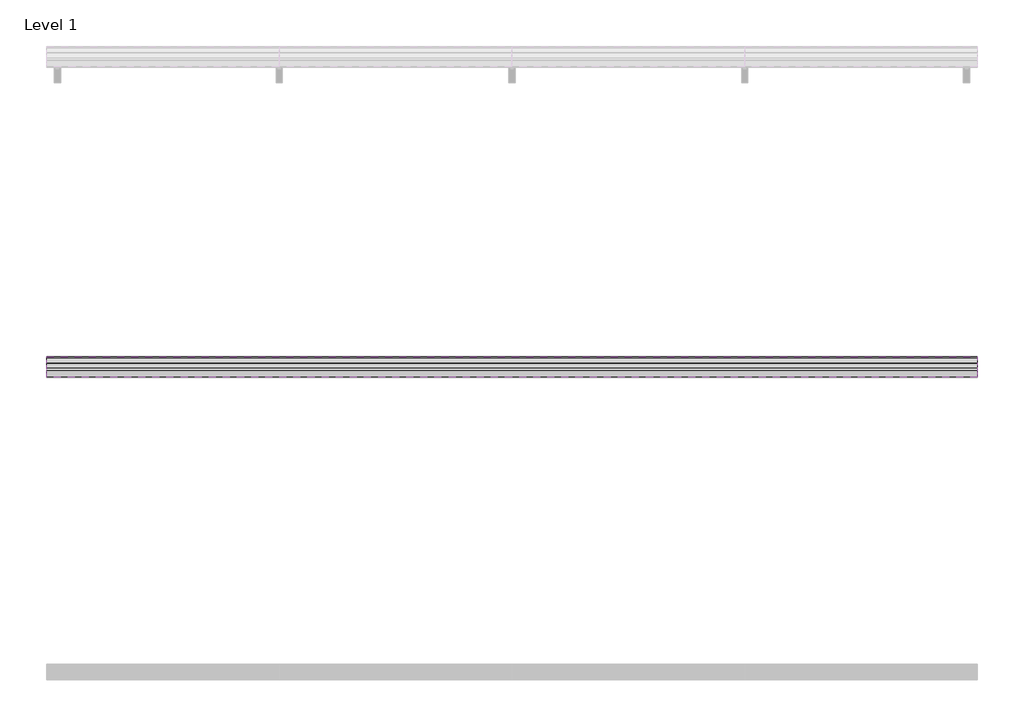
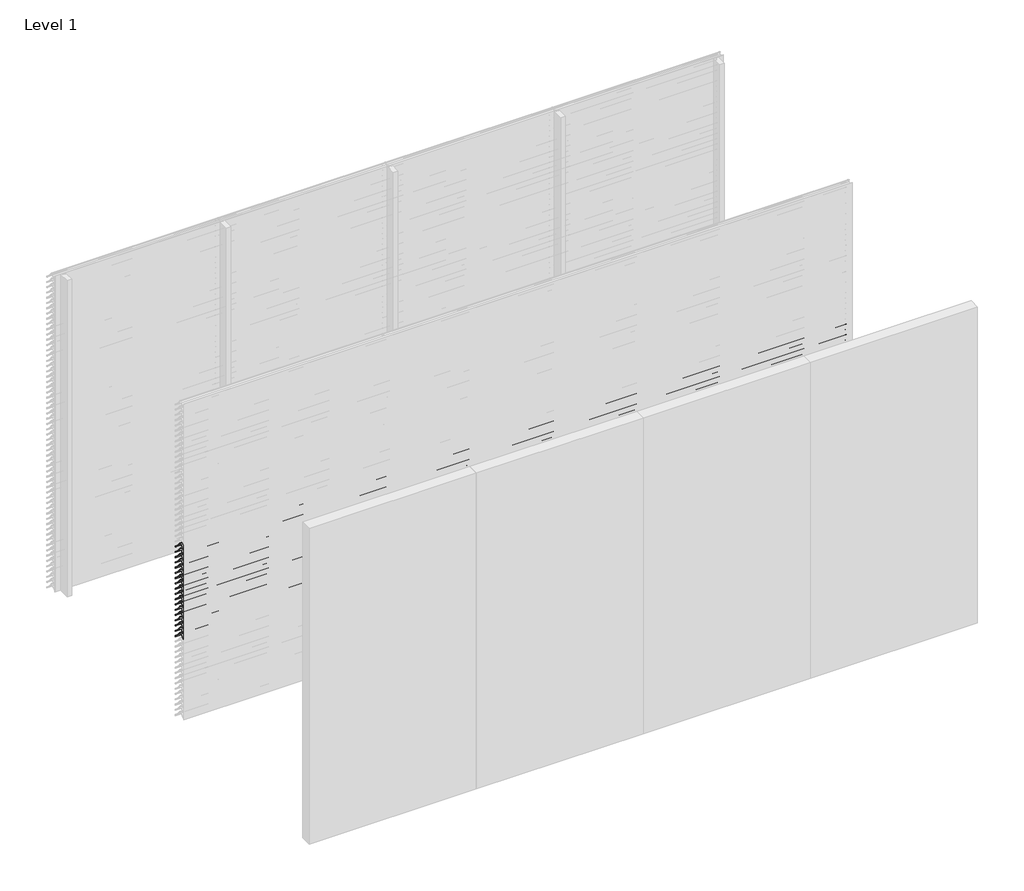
# One storey, part 56 of 173: 18 proxies.
"""IFC4 building model written with IfcOpenShell, lengths in millimetres."""

from ifc_helpers import new_model, si_unit, point, frame, frame_2d, origin, place, context, project, spatial, polyline, circle_curve, trimmed, segment, composite_curve, outline, extrude, element, save

model = new_model("IFC4")

# Units and contexts
model_context = context("Model", 3, world=origin())
ifc_project = project(units=[si_unit("LENGTHUNIT", "METRE", prefix="MILLI")], contexts=[model_context])

# Site, building, storey
site = spatial("IfcSite", under=ifc_project)
building = spatial("IfcBuilding", under=site)
storey = spatial("IfcBuildingStorey", under=building, Name="Level 1", Elevation=0.0)

# Proxies
placement = place(None, origin())
element("IfcBuildingElementProxy", 1, Name="Wall Sweeps", at=placement, inside=storey, context=model_context, shape_type="SweptSolid", body=[
    extrude(outline(composite_curve([segment(polyline([(-37998.0, 1609.1474905), (-37998.0, 1611.6227417)]), True, "CONTINUOUS"), segment(trimmed(circle_curve(frame_2d((-37951.2682172, 1566.2200208)), 65.1557103), [point((-37998.0, 1611.6227417))], [point((-37954.4014323, 1631.3003524))], False, "CARTESIAN"), True, "CONTINUOUS"), segment(polyline([(-37954.4014323, 1631.3003524), (-37934.8315836, 1631.3003524)]), True, "CONTINUOUS"), segment(trimmed(circle_curve(frame_2d((-37732.7329489, 1778.5533172)), 250.0545817), [point((-37934.8315836, 1631.3003524))], [point((-37941.4452143, 1640.8344583))], False, "CARTESIAN"), True, "CONTINUOUS"), segment(trimmed(circle_curve(frame_2d((-37953.2981792, 1635.1737835)), 13.1352966), [point((-37941.4452143, 1640.8344583))], [point((-37953.8171475, 1648.298824))], True, "CARTESIAN"), True, "CONTINUOUS"), segment(polyline([(-37953.8171475, 1648.298824), (-37953.8171475, 1650.0)]), True, "CONTINUOUS"), segment(trimmed(circle_curve(frame_2d((-37953.2981792, 1635.1737835)), 14.8352966), [point((-37953.8171475, 1650.0))], [point((-37939.9637661, 1641.6760487))], False, "CARTESIAN"), True, "CONTINUOUS"), segment(trimmed(circle_curve(frame_2d((-37732.7329489, 1778.5533172)), 248.3545817), [point((-37939.9637661, 1641.6760487))], [point((-37873.8787895, 1574.2059416))], True, "CARTESIAN"), True, "CONTINUOUS"), segment(trimmed(circle_curve(frame_2d((-37883.8147537, 1561.6649442)), 16.0), [point((-37873.8787895, 1574.2059416))], [point((-37867.8648347, 1560.4))], False, "CARTESIAN"), True, "CONTINUOUS"), segment(polyline([(-37867.8648347, 1560.4), (-37869.6712069, 1560.4)]), True, "CONTINUOUS"), segment(trimmed(circle_curve(frame_2d((-37883.8147537, 1561.6649442)), 14.2), [point((-37869.6712069, 1560.4))], [point((-37874.9518628, 1572.7594998))], True, "CARTESIAN"), True, "CONTINUOUS"), segment(trimmed(circle_curve(frame_2d((-37732.7329489, 1778.5533172)), 250.1545817), [point((-37874.9518628, 1572.7594998))], [point((-37933.7064024, 1629.6003524))], False, "CARTESIAN"), True, "CONTINUOUS"), segment(polyline([(-37933.7064024, 1629.6003524), (-37954.3602632, 1629.6003524)]), True, "CONTINUOUS"), segment(trimmed(circle_curve(frame_2d((-37951.2682172, 1566.2200208)), 63.4557103), [point((-37954.3602632, 1629.6003524))], [point((-37998.0, 1609.1474905))], True, "CARTESIAN"), True, "CONTINUOUS")], self_intersect=False)), frame((0.0, 0.0, 0.0), z_axis=(1.0, 0.0, 0.0), x_axis=(0.0, 1.0, 0.0)), (0.0, 0.0, 1.0), 6000.0),
])
element("IfcBuildingElementProxy", 2, Name="Wall Sweeps", at=placement, inside=storey, context=model_context, shape_type="SweptSolid", body=[
    extrude(outline(composite_curve([segment(polyline([(-37998.0, 1559.1474905), (-37998.0, 1561.6227417)]), True, "CONTINUOUS"), segment(trimmed(circle_curve(frame_2d((-37951.2682172, 1516.2200208)), 65.1557103), [point((-37998.0, 1561.6227417))], [point((-37954.4014323, 1581.3003524))], False, "CARTESIAN"), True, "CONTINUOUS"), segment(polyline([(-37954.4014323, 1581.3003524), (-37934.8315836, 1581.3003524)]), True, "CONTINUOUS"), segment(trimmed(circle_curve(frame_2d((-37732.7329489, 1728.5533172)), 250.0545817), [point((-37934.8315836, 1581.3003524))], [point((-37941.4452143, 1590.8344583))], False, "CARTESIAN"), True, "CONTINUOUS"), segment(trimmed(circle_curve(frame_2d((-37953.2981792, 1585.1737835)), 13.1352966), [point((-37941.4452143, 1590.8344583))], [point((-37953.8171475, 1598.298824))], True, "CARTESIAN"), True, "CONTINUOUS"), segment(polyline([(-37953.8171475, 1598.298824), (-37953.8171475, 1600.0)]), True, "CONTINUOUS"), segment(trimmed(circle_curve(frame_2d((-37953.2981792, 1585.1737835)), 14.8352966), [point((-37953.8171475, 1600.0))], [point((-37939.9637661, 1591.6760487))], False, "CARTESIAN"), True, "CONTINUOUS"), segment(trimmed(circle_curve(frame_2d((-37732.7329489, 1728.5533172)), 248.3545817), [point((-37939.9637661, 1591.6760487))], [point((-37873.8787895, 1524.2059416))], True, "CARTESIAN"), True, "CONTINUOUS"), segment(trimmed(circle_curve(frame_2d((-37883.8147537, 1511.6649442)), 16.0), [point((-37873.8787895, 1524.2059416))], [point((-37867.8648347, 1510.4))], False, "CARTESIAN"), True, "CONTINUOUS"), segment(polyline([(-37867.8648347, 1510.4), (-37869.6712069, 1510.4)]), True, "CONTINUOUS"), segment(trimmed(circle_curve(frame_2d((-37883.8147537, 1511.6649442)), 14.2), [point((-37869.6712069, 1510.4))], [point((-37874.9518628, 1522.7594998))], True, "CARTESIAN"), True, "CONTINUOUS"), segment(trimmed(circle_curve(frame_2d((-37732.7329489, 1728.5533172)), 250.1545817), [point((-37874.9518628, 1522.7594998))], [point((-37933.7064024, 1579.6003524))], False, "CARTESIAN"), True, "CONTINUOUS"), segment(polyline([(-37933.7064024, 1579.6003524), (-37954.3602632, 1579.6003524)]), True, "CONTINUOUS"), segment(trimmed(circle_curve(frame_2d((-37951.2682172, 1516.2200208)), 63.4557103), [point((-37954.3602632, 1579.6003524))], [point((-37998.0, 1559.1474905))], True, "CARTESIAN"), True, "CONTINUOUS")], self_intersect=False)), frame((0.0, 0.0, 0.0), z_axis=(1.0, 0.0, 0.0), x_axis=(0.0, 1.0, 0.0)), (0.0, 0.0, 1.0), 6000.0),
])
element("IfcBuildingElementProxy", 3, Name="Wall Sweeps", at=placement, inside=storey, context=model_context, shape_type="SweptSolid", body=[
    extrude(outline(composite_curve([segment(polyline([(-37998.0, 1509.1474905), (-37998.0, 1511.6227417)]), True, "CONTINUOUS"), segment(trimmed(circle_curve(frame_2d((-37951.2682172, 1466.2200208)), 65.1557103), [point((-37998.0, 1511.6227417))], [point((-37954.4014323, 1531.3003524))], False, "CARTESIAN"), True, "CONTINUOUS"), segment(polyline([(-37954.4014323, 1531.3003524), (-37934.8315836, 1531.3003524)]), True, "CONTINUOUS"), segment(trimmed(circle_curve(frame_2d((-37732.7329489, 1678.5533172)), 250.0545817), [point((-37934.8315836, 1531.3003524))], [point((-37941.4452143, 1540.8344583))], False, "CARTESIAN"), True, "CONTINUOUS"), segment(trimmed(circle_curve(frame_2d((-37953.2981792, 1535.1737835)), 13.1352966), [point((-37941.4452143, 1540.8344583))], [point((-37953.8171475, 1548.298824))], True, "CARTESIAN"), True, "CONTINUOUS"), segment(polyline([(-37953.8171475, 1548.298824), (-37953.8171475, 1550.0)]), True, "CONTINUOUS"), segment(trimmed(circle_curve(frame_2d((-37953.2981792, 1535.1737835)), 14.8352966), [point((-37953.8171475, 1550.0))], [point((-37939.9637661, 1541.6760487))], False, "CARTESIAN"), True, "CONTINUOUS"), segment(trimmed(circle_curve(frame_2d((-37732.7329489, 1678.5533172)), 248.3545817), [point((-37939.9637661, 1541.6760487))], [point((-37873.8787895, 1474.2059416))], True, "CARTESIAN"), True, "CONTINUOUS"), segment(trimmed(circle_curve(frame_2d((-37883.8147537, 1461.6649442)), 16.0), [point((-37873.8787895, 1474.2059416))], [point((-37867.8648347, 1460.4))], False, "CARTESIAN"), True, "CONTINUOUS"), segment(polyline([(-37867.8648347, 1460.4), (-37869.6712069, 1460.4)]), True, "CONTINUOUS"), segment(trimmed(circle_curve(frame_2d((-37883.8147537, 1461.6649442)), 14.2), [point((-37869.6712069, 1460.4))], [point((-37874.9518628, 1472.7594998))], True, "CARTESIAN"), True, "CONTINUOUS"), segment(trimmed(circle_curve(frame_2d((-37732.7329489, 1678.5533172)), 250.1545817), [point((-37874.9518628, 1472.7594998))], [point((-37933.7064024, 1529.6003524))], False, "CARTESIAN"), True, "CONTINUOUS"), segment(polyline([(-37933.7064024, 1529.6003524), (-37954.3602632, 1529.6003524)]), True, "CONTINUOUS"), segment(trimmed(circle_curve(frame_2d((-37951.2682172, 1466.2200208)), 63.4557103), [point((-37954.3602632, 1529.6003524))], [point((-37998.0, 1509.1474905))], True, "CARTESIAN"), True, "CONTINUOUS")], self_intersect=False)), frame((0.0, 0.0, 0.0), z_axis=(1.0, 0.0, 0.0), x_axis=(0.0, 1.0, 0.0)), (0.0, 0.0, 1.0), 6000.0),
])
element("IfcBuildingElementProxy", 4, Name="Wall Sweeps", at=placement, inside=storey, context=model_context, shape_type="SweptSolid", body=[
    extrude(outline(composite_curve([segment(polyline([(-37998.0, 1459.1474905), (-37998.0, 1461.6227417)]), True, "CONTINUOUS"), segment(trimmed(circle_curve(frame_2d((-37951.2682172, 1416.2200208)), 65.1557103), [point((-37998.0, 1461.6227417))], [point((-37954.4014323, 1481.3003524))], False, "CARTESIAN"), True, "CONTINUOUS"), segment(polyline([(-37954.4014323, 1481.3003524), (-37934.8315836, 1481.3003524)]), True, "CONTINUOUS"), segment(trimmed(circle_curve(frame_2d((-37732.7329489, 1628.5533172)), 250.0545817), [point((-37934.8315836, 1481.3003524))], [point((-37941.4452143, 1490.8344583))], False, "CARTESIAN"), True, "CONTINUOUS"), segment(trimmed(circle_curve(frame_2d((-37953.2981792, 1485.1737835)), 13.1352966), [point((-37941.4452143, 1490.8344583))], [point((-37953.8171475, 1498.298824))], True, "CARTESIAN"), True, "CONTINUOUS"), segment(polyline([(-37953.8171475, 1498.298824), (-37953.8171475, 1500.0)]), True, "CONTINUOUS"), segment(trimmed(circle_curve(frame_2d((-37953.2981792, 1485.1737835)), 14.8352966), [point((-37953.8171475, 1500.0))], [point((-37939.9637661, 1491.6760487))], False, "CARTESIAN"), True, "CONTINUOUS"), segment(trimmed(circle_curve(frame_2d((-37732.7329489, 1628.5533172)), 248.3545817), [point((-37939.9637661, 1491.6760487))], [point((-37873.8787895, 1424.2059416))], True, "CARTESIAN"), True, "CONTINUOUS"), segment(trimmed(circle_curve(frame_2d((-37883.8147537, 1411.6649442)), 16.0), [point((-37873.8787895, 1424.2059416))], [point((-37867.8648347, 1410.4))], False, "CARTESIAN"), True, "CONTINUOUS"), segment(polyline([(-37867.8648347, 1410.4), (-37869.6712069, 1410.4)]), True, "CONTINUOUS"), segment(trimmed(circle_curve(frame_2d((-37883.8147537, 1411.6649442)), 14.2), [point((-37869.6712069, 1410.4))], [point((-37874.9518628, 1422.7594998))], True, "CARTESIAN"), True, "CONTINUOUS"), segment(trimmed(circle_curve(frame_2d((-37732.7329489, 1628.5533172)), 250.1545817), [point((-37874.9518628, 1422.7594998))], [point((-37933.7064024, 1479.6003524))], False, "CARTESIAN"), True, "CONTINUOUS"), segment(polyline([(-37933.7064024, 1479.6003524), (-37954.3602632, 1479.6003524)]), True, "CONTINUOUS"), segment(trimmed(circle_curve(frame_2d((-37951.2682172, 1416.2200208)), 63.4557103), [point((-37954.3602632, 1479.6003524))], [point((-37998.0, 1459.1474905))], True, "CARTESIAN"), True, "CONTINUOUS")], self_intersect=False)), frame((0.0, 0.0, 0.0), z_axis=(1.0, 0.0, 0.0), x_axis=(0.0, 1.0, 0.0)), (0.0, 0.0, 1.0), 6000.0),
])
element("IfcBuildingElementProxy", 5, Name="Wall Sweeps", at=placement, inside=storey, context=model_context, shape_type="SweptSolid", body=[
    extrude(outline(composite_curve([segment(polyline([(-37998.0, 1409.1474905), (-37998.0, 1411.6227417)]), True, "CONTINUOUS"), segment(trimmed(circle_curve(frame_2d((-37951.2682172, 1366.2200208)), 65.1557103), [point((-37998.0, 1411.6227417))], [point((-37954.4014323, 1431.3003524))], False, "CARTESIAN"), True, "CONTINUOUS"), segment(polyline([(-37954.4014323, 1431.3003524), (-37934.8315836, 1431.3003524)]), True, "CONTINUOUS"), segment(trimmed(circle_curve(frame_2d((-37732.7329489, 1578.5533172)), 250.0545817), [point((-37934.8315836, 1431.3003524))], [point((-37941.4452143, 1440.8344583))], False, "CARTESIAN"), True, "CONTINUOUS"), segment(trimmed(circle_curve(frame_2d((-37953.2981792, 1435.1737835)), 13.1352966), [point((-37941.4452143, 1440.8344583))], [point((-37953.8171475, 1448.298824))], True, "CARTESIAN"), True, "CONTINUOUS"), segment(polyline([(-37953.8171475, 1448.298824), (-37953.8171475, 1450.0)]), True, "CONTINUOUS"), segment(trimmed(circle_curve(frame_2d((-37953.2981792, 1435.1737835)), 14.8352966), [point((-37953.8171475, 1450.0))], [point((-37939.9637661, 1441.6760487))], False, "CARTESIAN"), True, "CONTINUOUS"), segment(trimmed(circle_curve(frame_2d((-37732.7329489, 1578.5533172)), 248.3545817), [point((-37939.9637661, 1441.6760487))], [point((-37873.8787895, 1374.2059416))], True, "CARTESIAN"), True, "CONTINUOUS"), segment(trimmed(circle_curve(frame_2d((-37883.8147537, 1361.6649442)), 16.0), [point((-37873.8787895, 1374.2059416))], [point((-37867.8648347, 1360.4))], False, "CARTESIAN"), True, "CONTINUOUS"), segment(polyline([(-37867.8648347, 1360.4), (-37869.6712069, 1360.4)]), True, "CONTINUOUS"), segment(trimmed(circle_curve(frame_2d((-37883.8147537, 1361.6649442)), 14.2), [point((-37869.6712069, 1360.4))], [point((-37874.9518628, 1372.7594998))], True, "CARTESIAN"), True, "CONTINUOUS"), segment(trimmed(circle_curve(frame_2d((-37732.7329489, 1578.5533172)), 250.1545817), [point((-37874.9518628, 1372.7594998))], [point((-37933.7064024, 1429.6003524))], False, "CARTESIAN"), True, "CONTINUOUS"), segment(polyline([(-37933.7064024, 1429.6003524), (-37954.3602632, 1429.6003524)]), True, "CONTINUOUS"), segment(trimmed(circle_curve(frame_2d((-37951.2682172, 1366.2200208)), 63.4557103), [point((-37954.3602632, 1429.6003524))], [point((-37998.0, 1409.1474905))], True, "CARTESIAN"), True, "CONTINUOUS")], self_intersect=False)), frame((0.0, 0.0, 0.0), z_axis=(1.0, 0.0, 0.0), x_axis=(0.0, 1.0, 0.0)), (0.0, 0.0, 1.0), 6000.0),
])
element("IfcBuildingElementProxy", 6, Name="Wall Sweeps", at=placement, inside=storey, context=model_context, shape_type="SweptSolid", body=[
    extrude(outline(composite_curve([segment(polyline([(-37998.0, 1359.1474905), (-37998.0, 1361.6227417)]), True, "CONTINUOUS"), segment(trimmed(circle_curve(frame_2d((-37951.2682172, 1316.2200208)), 65.1557103), [point((-37998.0, 1361.6227417))], [point((-37954.4014323, 1381.3003524))], False, "CARTESIAN"), True, "CONTINUOUS"), segment(polyline([(-37954.4014323, 1381.3003524), (-37934.8315836, 1381.3003524)]), True, "CONTINUOUS"), segment(trimmed(circle_curve(frame_2d((-37732.7329489, 1528.5533172)), 250.0545817), [point((-37934.8315836, 1381.3003524))], [point((-37941.4452143, 1390.8344583))], False, "CARTESIAN"), True, "CONTINUOUS"), segment(trimmed(circle_curve(frame_2d((-37953.2981792, 1385.1737835)), 13.1352966), [point((-37941.4452143, 1390.8344583))], [point((-37953.8171475, 1398.298824))], True, "CARTESIAN"), True, "CONTINUOUS"), segment(polyline([(-37953.8171475, 1398.298824), (-37953.8171475, 1400.0)]), True, "CONTINUOUS"), segment(trimmed(circle_curve(frame_2d((-37953.2981792, 1385.1737835)), 14.8352966), [point((-37953.8171475, 1400.0))], [point((-37939.9637661, 1391.6760487))], False, "CARTESIAN"), True, "CONTINUOUS"), segment(trimmed(circle_curve(frame_2d((-37732.7329489, 1528.5533172)), 248.3545817), [point((-37939.9637661, 1391.6760487))], [point((-37873.8787895, 1324.2059416))], True, "CARTESIAN"), True, "CONTINUOUS"), segment(trimmed(circle_curve(frame_2d((-37883.8147537, 1311.6649442)), 16.0), [point((-37873.8787895, 1324.2059416))], [point((-37867.8648347, 1310.4))], False, "CARTESIAN"), True, "CONTINUOUS"), segment(polyline([(-37867.8648347, 1310.4), (-37869.6712069, 1310.4)]), True, "CONTINUOUS"), segment(trimmed(circle_curve(frame_2d((-37883.8147537, 1311.6649442)), 14.2), [point((-37869.6712069, 1310.4))], [point((-37874.9518628, 1322.7594998))], True, "CARTESIAN"), True, "CONTINUOUS"), segment(trimmed(circle_curve(frame_2d((-37732.7329489, 1528.5533172)), 250.1545817), [point((-37874.9518628, 1322.7594998))], [point((-37933.7064024, 1379.6003524))], False, "CARTESIAN"), True, "CONTINUOUS"), segment(polyline([(-37933.7064024, 1379.6003524), (-37954.3602632, 1379.6003524)]), True, "CONTINUOUS"), segment(trimmed(circle_curve(frame_2d((-37951.2682172, 1316.2200208)), 63.4557103), [point((-37954.3602632, 1379.6003524))], [point((-37998.0, 1359.1474905))], True, "CARTESIAN"), True, "CONTINUOUS")], self_intersect=False)), frame((0.0, 0.0, 0.0), z_axis=(1.0, 0.0, 0.0), x_axis=(0.0, 1.0, 0.0)), (0.0, 0.0, 1.0), 6000.0),
])
element("IfcBuildingElementProxy", 7, Name="Wall Sweeps", at=placement, inside=storey, context=model_context, shape_type="SweptSolid", body=[
    extrude(outline(composite_curve([segment(polyline([(-37998.0, 1309.1474905), (-37998.0, 1311.6227417)]), True, "CONTINUOUS"), segment(trimmed(circle_curve(frame_2d((-37951.2682172, 1266.2200208)), 65.1557103), [point((-37998.0, 1311.6227417))], [point((-37954.4014323, 1331.3003524))], False, "CARTESIAN"), True, "CONTINUOUS"), segment(polyline([(-37954.4014323, 1331.3003524), (-37934.8315836, 1331.3003524)]), True, "CONTINUOUS"), segment(trimmed(circle_curve(frame_2d((-37732.7329489, 1478.5533172)), 250.0545817), [point((-37934.8315836, 1331.3003524))], [point((-37941.4452143, 1340.8344583))], False, "CARTESIAN"), True, "CONTINUOUS"), segment(trimmed(circle_curve(frame_2d((-37953.2981792, 1335.1737835)), 13.1352966), [point((-37941.4452143, 1340.8344583))], [point((-37953.8171475, 1348.298824))], True, "CARTESIAN"), True, "CONTINUOUS"), segment(polyline([(-37953.8171475, 1348.298824), (-37953.8171475, 1350.0)]), True, "CONTINUOUS"), segment(trimmed(circle_curve(frame_2d((-37953.2981792, 1335.1737835)), 14.8352966), [point((-37953.8171475, 1350.0))], [point((-37939.9637661, 1341.6760487))], False, "CARTESIAN"), True, "CONTINUOUS"), segment(trimmed(circle_curve(frame_2d((-37732.7329489, 1478.5533172)), 248.3545817), [point((-37939.9637661, 1341.6760487))], [point((-37873.8787895, 1274.2059416))], True, "CARTESIAN"), True, "CONTINUOUS"), segment(trimmed(circle_curve(frame_2d((-37883.8147537, 1261.6649442)), 16.0), [point((-37873.8787895, 1274.2059416))], [point((-37867.8648347, 1260.4))], False, "CARTESIAN"), True, "CONTINUOUS"), segment(polyline([(-37867.8648347, 1260.4), (-37869.6712069, 1260.4)]), True, "CONTINUOUS"), segment(trimmed(circle_curve(frame_2d((-37883.8147537, 1261.6649442)), 14.2), [point((-37869.6712069, 1260.4))], [point((-37874.9518628, 1272.7594998))], True, "CARTESIAN"), True, "CONTINUOUS"), segment(trimmed(circle_curve(frame_2d((-37732.7329489, 1478.5533172)), 250.1545817), [point((-37874.9518628, 1272.7594998))], [point((-37933.7064024, 1329.6003524))], False, "CARTESIAN"), True, "CONTINUOUS"), segment(polyline([(-37933.7064024, 1329.6003524), (-37954.3602632, 1329.6003524)]), True, "CONTINUOUS"), segment(trimmed(circle_curve(frame_2d((-37951.2682172, 1266.2200208)), 63.4557103), [point((-37954.3602632, 1329.6003524))], [point((-37998.0, 1309.1474905))], True, "CARTESIAN"), True, "CONTINUOUS")], self_intersect=False)), frame((0.0, 0.0, 0.0), z_axis=(1.0, 0.0, 0.0), x_axis=(0.0, 1.0, 0.0)), (0.0, 0.0, 1.0), 6000.0),
])
element("IfcBuildingElementProxy", 8, Name="Wall Sweeps", at=placement, inside=storey, context=model_context, shape_type="SweptSolid", body=[
    extrude(outline(composite_curve([segment(polyline([(-37998.0, 1259.1474905), (-37998.0, 1261.6227417)]), True, "CONTINUOUS"), segment(trimmed(circle_curve(frame_2d((-37951.2682172, 1216.2200208)), 65.1557103), [point((-37998.0, 1261.6227417))], [point((-37954.4014323, 1281.3003524))], False, "CARTESIAN"), True, "CONTINUOUS"), segment(polyline([(-37954.4014323, 1281.3003524), (-37934.8315836, 1281.3003524)]), True, "CONTINUOUS"), segment(trimmed(circle_curve(frame_2d((-37732.7329489, 1428.5533172)), 250.0545817), [point((-37934.8315836, 1281.3003524))], [point((-37941.4452143, 1290.8344583))], False, "CARTESIAN"), True, "CONTINUOUS"), segment(trimmed(circle_curve(frame_2d((-37953.2981792, 1285.1737835)), 13.1352966), [point((-37941.4452143, 1290.8344583))], [point((-37953.8171475, 1298.298824))], True, "CARTESIAN"), True, "CONTINUOUS"), segment(polyline([(-37953.8171475, 1298.298824), (-37953.8171475, 1300.0)]), True, "CONTINUOUS"), segment(trimmed(circle_curve(frame_2d((-37953.2981792, 1285.1737835)), 14.8352966), [point((-37953.8171475, 1300.0))], [point((-37939.9637661, 1291.6760487))], False, "CARTESIAN"), True, "CONTINUOUS"), segment(trimmed(circle_curve(frame_2d((-37732.7329489, 1428.5533172)), 248.3545817), [point((-37939.9637661, 1291.6760487))], [point((-37873.8787895, 1224.2059416))], True, "CARTESIAN"), True, "CONTINUOUS"), segment(trimmed(circle_curve(frame_2d((-37883.8147537, 1211.6649442)), 16.0), [point((-37873.8787895, 1224.2059416))], [point((-37867.8648347, 1210.4))], False, "CARTESIAN"), True, "CONTINUOUS"), segment(polyline([(-37867.8648347, 1210.4), (-37869.6712069, 1210.4)]), True, "CONTINUOUS"), segment(trimmed(circle_curve(frame_2d((-37883.8147537, 1211.6649442)), 14.2), [point((-37869.6712069, 1210.4))], [point((-37874.9518628, 1222.7594998))], True, "CARTESIAN"), True, "CONTINUOUS"), segment(trimmed(circle_curve(frame_2d((-37732.7329489, 1428.5533172)), 250.1545817), [point((-37874.9518628, 1222.7594998))], [point((-37933.7064024, 1279.6003524))], False, "CARTESIAN"), True, "CONTINUOUS"), segment(polyline([(-37933.7064024, 1279.6003524), (-37954.3602632, 1279.6003524)]), True, "CONTINUOUS"), segment(trimmed(circle_curve(frame_2d((-37951.2682172, 1216.2200208)), 63.4557103), [point((-37954.3602632, 1279.6003524))], [point((-37998.0, 1259.1474905))], True, "CARTESIAN"), True, "CONTINUOUS")], self_intersect=False)), frame((0.0, 0.0, 0.0), z_axis=(1.0, 0.0, 0.0), x_axis=(0.0, 1.0, 0.0)), (0.0, 0.0, 1.0), 6000.0),
])
element("IfcBuildingElementProxy", 9, Name="Wall Sweeps", at=placement, inside=storey, context=model_context, shape_type="SweptSolid", body=[
    extrude(outline(composite_curve([segment(polyline([(-37998.0, 1209.1474905), (-37998.0, 1211.6227417)]), True, "CONTINUOUS"), segment(trimmed(circle_curve(frame_2d((-37951.2682172, 1166.2200208)), 65.1557103), [point((-37998.0, 1211.6227417))], [point((-37954.4014323, 1231.3003524))], False, "CARTESIAN"), True, "CONTINUOUS"), segment(polyline([(-37954.4014323, 1231.3003524), (-37934.8315836, 1231.3003524)]), True, "CONTINUOUS"), segment(trimmed(circle_curve(frame_2d((-37732.7329489, 1378.5533172)), 250.0545817), [point((-37934.8315836, 1231.3003524))], [point((-37941.4452143, 1240.8344583))], False, "CARTESIAN"), True, "CONTINUOUS"), segment(trimmed(circle_curve(frame_2d((-37953.2981792, 1235.1737835)), 13.1352966), [point((-37941.4452143, 1240.8344583))], [point((-37953.8171475, 1248.298824))], True, "CARTESIAN"), True, "CONTINUOUS"), segment(polyline([(-37953.8171475, 1248.298824), (-37953.8171475, 1250.0)]), True, "CONTINUOUS"), segment(trimmed(circle_curve(frame_2d((-37953.2981792, 1235.1737835)), 14.8352966), [point((-37953.8171475, 1250.0))], [point((-37939.9637661, 1241.6760487))], False, "CARTESIAN"), True, "CONTINUOUS"), segment(trimmed(circle_curve(frame_2d((-37732.7329489, 1378.5533172)), 248.3545817), [point((-37939.9637661, 1241.6760487))], [point((-37873.8787895, 1174.2059416))], True, "CARTESIAN"), True, "CONTINUOUS"), segment(trimmed(circle_curve(frame_2d((-37883.8147537, 1161.6649442)), 16.0), [point((-37873.8787895, 1174.2059416))], [point((-37867.8648347, 1160.4))], False, "CARTESIAN"), True, "CONTINUOUS"), segment(polyline([(-37867.8648347, 1160.4), (-37869.6712069, 1160.4)]), True, "CONTINUOUS"), segment(trimmed(circle_curve(frame_2d((-37883.8147537, 1161.6649442)), 14.2), [point((-37869.6712069, 1160.4))], [point((-37874.9518628, 1172.7594998))], True, "CARTESIAN"), True, "CONTINUOUS"), segment(trimmed(circle_curve(frame_2d((-37732.7329489, 1378.5533172)), 250.1545817), [point((-37874.9518628, 1172.7594998))], [point((-37933.7064024, 1229.6003524))], False, "CARTESIAN"), True, "CONTINUOUS"), segment(polyline([(-37933.7064024, 1229.6003524), (-37954.3602632, 1229.6003524)]), True, "CONTINUOUS"), segment(trimmed(circle_curve(frame_2d((-37951.2682172, 1166.2200208)), 63.4557103), [point((-37954.3602632, 1229.6003524))], [point((-37998.0, 1209.1474905))], True, "CARTESIAN"), True, "CONTINUOUS")], self_intersect=False)), frame((0.0, 0.0, 0.0), z_axis=(1.0, 0.0, 0.0), x_axis=(0.0, 1.0, 0.0)), (0.0, 0.0, 1.0), 6000.0),
])
element("IfcBuildingElementProxy", 10, Name="Wall Sweeps", at=placement, inside=storey, context=model_context, shape_type="SweptSolid", body=[
    extrude(outline(composite_curve([segment(polyline([(-37998.0, 1159.1474905), (-37998.0, 1161.6227417)]), True, "CONTINUOUS"), segment(trimmed(circle_curve(frame_2d((-37951.2682172, 1116.2200208)), 65.1557103), [point((-37998.0, 1161.6227417))], [point((-37954.4014323, 1181.3003524))], False, "CARTESIAN"), True, "CONTINUOUS"), segment(polyline([(-37954.4014323, 1181.3003524), (-37934.8315836, 1181.3003524)]), True, "CONTINUOUS"), segment(trimmed(circle_curve(frame_2d((-37732.7329489, 1328.5533172)), 250.0545817), [point((-37934.8315836, 1181.3003524))], [point((-37941.4452143, 1190.8344583))], False, "CARTESIAN"), True, "CONTINUOUS"), segment(trimmed(circle_curve(frame_2d((-37953.2981792, 1185.1737835)), 13.1352966), [point((-37941.4452143, 1190.8344583))], [point((-37953.8171475, 1198.298824))], True, "CARTESIAN"), True, "CONTINUOUS"), segment(polyline([(-37953.8171475, 1198.298824), (-37953.8171475, 1200.0)]), True, "CONTINUOUS"), segment(trimmed(circle_curve(frame_2d((-37953.2981792, 1185.1737835)), 14.8352966), [point((-37953.8171475, 1200.0))], [point((-37939.9637661, 1191.6760487))], False, "CARTESIAN"), True, "CONTINUOUS"), segment(trimmed(circle_curve(frame_2d((-37732.7329489, 1328.5533172)), 248.3545817), [point((-37939.9637661, 1191.6760487))], [point((-37873.8787895, 1124.2059416))], True, "CARTESIAN"), True, "CONTINUOUS"), segment(trimmed(circle_curve(frame_2d((-37883.8147537, 1111.6649442)), 16.0), [point((-37873.8787895, 1124.2059416))], [point((-37867.8648347, 1110.4))], False, "CARTESIAN"), True, "CONTINUOUS"), segment(polyline([(-37867.8648347, 1110.4), (-37869.6712069, 1110.4)]), True, "CONTINUOUS"), segment(trimmed(circle_curve(frame_2d((-37883.8147537, 1111.6649442)), 14.2), [point((-37869.6712069, 1110.4))], [point((-37874.9518628, 1122.7594998))], True, "CARTESIAN"), True, "CONTINUOUS"), segment(trimmed(circle_curve(frame_2d((-37732.7329489, 1328.5533172)), 250.1545817), [point((-37874.9518628, 1122.7594998))], [point((-37933.7064024, 1179.6003524))], False, "CARTESIAN"), True, "CONTINUOUS"), segment(polyline([(-37933.7064024, 1179.6003524), (-37954.3602632, 1179.6003524)]), True, "CONTINUOUS"), segment(trimmed(circle_curve(frame_2d((-37951.2682172, 1116.2200208)), 63.4557103), [point((-37954.3602632, 1179.6003524))], [point((-37998.0, 1159.1474905))], True, "CARTESIAN"), True, "CONTINUOUS")], self_intersect=False)), frame((0.0, 0.0, 0.0), z_axis=(1.0, 0.0, 0.0), x_axis=(0.0, 1.0, 0.0)), (0.0, 0.0, 1.0), 6000.0),
])
element("IfcBuildingElementProxy", 11, Name="Wall Sweeps", at=placement, inside=storey, context=model_context, shape_type="SweptSolid", body=[
    extrude(outline(composite_curve([segment(polyline([(-37998.0, 1109.1474905), (-37998.0, 1111.6227417)]), True, "CONTINUOUS"), segment(trimmed(circle_curve(frame_2d((-37951.2682172, 1066.2200208)), 65.1557103), [point((-37998.0, 1111.6227417))], [point((-37954.4014323, 1131.3003524))], False, "CARTESIAN"), True, "CONTINUOUS"), segment(polyline([(-37954.4014323, 1131.3003524), (-37934.8315836, 1131.3003524)]), True, "CONTINUOUS"), segment(trimmed(circle_curve(frame_2d((-37732.7329489, 1278.5533172)), 250.0545817), [point((-37934.8315836, 1131.3003524))], [point((-37941.4452143, 1140.8344583))], False, "CARTESIAN"), True, "CONTINUOUS"), segment(trimmed(circle_curve(frame_2d((-37953.2981792, 1135.1737835)), 13.1352966), [point((-37941.4452143, 1140.8344583))], [point((-37953.8171475, 1148.298824))], True, "CARTESIAN"), True, "CONTINUOUS"), segment(polyline([(-37953.8171475, 1148.298824), (-37953.8171475, 1150.0)]), True, "CONTINUOUS"), segment(trimmed(circle_curve(frame_2d((-37953.2981792, 1135.1737835)), 14.8352966), [point((-37953.8171475, 1150.0))], [point((-37939.9637661, 1141.6760487))], False, "CARTESIAN"), True, "CONTINUOUS"), segment(trimmed(circle_curve(frame_2d((-37732.7329489, 1278.5533172)), 248.3545817), [point((-37939.9637661, 1141.6760487))], [point((-37873.8787895, 1074.2059416))], True, "CARTESIAN"), True, "CONTINUOUS"), segment(trimmed(circle_curve(frame_2d((-37883.8147537, 1061.6649442)), 16.0), [point((-37873.8787895, 1074.2059416))], [point((-37867.8648347, 1060.4))], False, "CARTESIAN"), True, "CONTINUOUS"), segment(polyline([(-37867.8648347, 1060.4), (-37869.6712069, 1060.4)]), True, "CONTINUOUS"), segment(trimmed(circle_curve(frame_2d((-37883.8147537, 1061.6649442)), 14.2), [point((-37869.6712069, 1060.4))], [point((-37874.9518628, 1072.7594998))], True, "CARTESIAN"), True, "CONTINUOUS"), segment(trimmed(circle_curve(frame_2d((-37732.7329489, 1278.5533172)), 250.1545817), [point((-37874.9518628, 1072.7594998))], [point((-37933.7064024, 1129.6003524))], False, "CARTESIAN"), True, "CONTINUOUS"), segment(polyline([(-37933.7064024, 1129.6003524), (-37954.3602632, 1129.6003524)]), True, "CONTINUOUS"), segment(trimmed(circle_curve(frame_2d((-37951.2682172, 1066.2200208)), 63.4557103), [point((-37954.3602632, 1129.6003524))], [point((-37998.0, 1109.1474905))], True, "CARTESIAN"), True, "CONTINUOUS")], self_intersect=False)), frame((0.0, 0.0, 0.0), z_axis=(1.0, 0.0, 0.0), x_axis=(0.0, 1.0, 0.0)), (0.0, 0.0, 1.0), 6000.0),
])
element("IfcBuildingElementProxy", 12, Name="Wall Sweeps", at=placement, inside=storey, context=model_context, shape_type="SweptSolid", body=[
    extrude(outline(composite_curve([segment(polyline([(-37998.0, 1059.1474905), (-37998.0, 1061.6227417)]), True, "CONTINUOUS"), segment(trimmed(circle_curve(frame_2d((-37951.2682172, 1016.2200208)), 65.1557103), [point((-37998.0, 1061.6227417))], [point((-37954.4014323, 1081.3003524))], False, "CARTESIAN"), True, "CONTINUOUS"), segment(polyline([(-37954.4014323, 1081.3003524), (-37934.8315836, 1081.3003524)]), True, "CONTINUOUS"), segment(trimmed(circle_curve(frame_2d((-37732.7329489, 1228.5533172)), 250.0545817), [point((-37934.8315836, 1081.3003524))], [point((-37941.4452143, 1090.8344583))], False, "CARTESIAN"), True, "CONTINUOUS"), segment(trimmed(circle_curve(frame_2d((-37953.2981792, 1085.1737835)), 13.1352966), [point((-37941.4452143, 1090.8344583))], [point((-37953.8171475, 1098.298824))], True, "CARTESIAN"), True, "CONTINUOUS"), segment(polyline([(-37953.8171475, 1098.298824), (-37953.8171475, 1100.0)]), True, "CONTINUOUS"), segment(trimmed(circle_curve(frame_2d((-37953.2981792, 1085.1737835)), 14.8352966), [point((-37953.8171475, 1100.0))], [point((-37939.9637661, 1091.6760487))], False, "CARTESIAN"), True, "CONTINUOUS"), segment(trimmed(circle_curve(frame_2d((-37732.7329489, 1228.5533172)), 248.3545817), [point((-37939.9637661, 1091.6760487))], [point((-37873.8787895, 1024.2059416))], True, "CARTESIAN"), True, "CONTINUOUS"), segment(trimmed(circle_curve(frame_2d((-37883.8147537, 1011.6649442)), 16.0), [point((-37873.8787895, 1024.2059416))], [point((-37867.8648347, 1010.4))], False, "CARTESIAN"), True, "CONTINUOUS"), segment(polyline([(-37867.8648347, 1010.4), (-37869.6712069, 1010.4)]), True, "CONTINUOUS"), segment(trimmed(circle_curve(frame_2d((-37883.8147537, 1011.6649442)), 14.2), [point((-37869.6712069, 1010.4))], [point((-37874.9518628, 1022.7594998))], True, "CARTESIAN"), True, "CONTINUOUS"), segment(trimmed(circle_curve(frame_2d((-37732.7329489, 1228.5533172)), 250.1545817), [point((-37874.9518628, 1022.7594998))], [point((-37933.7064024, 1079.6003524))], False, "CARTESIAN"), True, "CONTINUOUS"), segment(polyline([(-37933.7064024, 1079.6003524), (-37954.3602632, 1079.6003524)]), True, "CONTINUOUS"), segment(trimmed(circle_curve(frame_2d((-37951.2682172, 1016.2200208)), 63.4557103), [point((-37954.3602632, 1079.6003524))], [point((-37998.0, 1059.1474905))], True, "CARTESIAN"), True, "CONTINUOUS")], self_intersect=False)), frame((0.0, 0.0, 0.0), z_axis=(1.0, 0.0, 0.0), x_axis=(0.0, 1.0, 0.0)), (0.0, 0.0, 1.0), 6000.0),
])
element("IfcBuildingElementProxy", 13, Name="Wall Sweeps", at=placement, inside=storey, context=model_context, shape_type="SweptSolid", body=[
    extrude(outline(composite_curve([segment(polyline([(-37998.0, 1009.1474905), (-37998.0, 1011.6227417)]), True, "CONTINUOUS"), segment(trimmed(circle_curve(frame_2d((-37951.2682172, 966.2200208)), 65.1557103), [point((-37998.0, 1011.6227417))], [point((-37954.4014323, 1031.3003524))], False, "CARTESIAN"), True, "CONTINUOUS"), segment(polyline([(-37954.4014323, 1031.3003524), (-37934.8315836, 1031.3003524)]), True, "CONTINUOUS"), segment(trimmed(circle_curve(frame_2d((-37732.7329489, 1178.5533172)), 250.0545817), [point((-37934.8315836, 1031.3003524))], [point((-37941.4452143, 1040.8344583))], False, "CARTESIAN"), True, "CONTINUOUS"), segment(trimmed(circle_curve(frame_2d((-37953.2981792, 1035.1737835)), 13.1352966), [point((-37941.4452143, 1040.8344583))], [point((-37953.8171475, 1048.298824))], True, "CARTESIAN"), True, "CONTINUOUS"), segment(polyline([(-37953.8171475, 1048.298824), (-37953.8171475, 1050.0)]), True, "CONTINUOUS"), segment(trimmed(circle_curve(frame_2d((-37953.2981792, 1035.1737835)), 14.8352966), [point((-37953.8171475, 1050.0))], [point((-37939.9637661, 1041.6760487))], False, "CARTESIAN"), True, "CONTINUOUS"), segment(trimmed(circle_curve(frame_2d((-37732.7329489, 1178.5533172)), 248.3545817), [point((-37939.9637661, 1041.6760487))], [point((-37873.8787895, 974.2059416))], True, "CARTESIAN"), True, "CONTINUOUS"), segment(trimmed(circle_curve(frame_2d((-37883.8147537, 961.6649442)), 16.0), [point((-37873.8787895, 974.2059416))], [point((-37867.8648347, 960.4))], False, "CARTESIAN"), True, "CONTINUOUS"), segment(polyline([(-37867.8648347, 960.4), (-37869.6712069, 960.4)]), True, "CONTINUOUS"), segment(trimmed(circle_curve(frame_2d((-37883.8147537, 961.6649442)), 14.2), [point((-37869.6712069, 960.4))], [point((-37874.9518628, 972.7594998))], True, "CARTESIAN"), True, "CONTINUOUS"), segment(trimmed(circle_curve(frame_2d((-37732.7329489, 1178.5533172)), 250.1545817), [point((-37874.9518628, 972.7594998))], [point((-37933.7064024, 1029.6003524))], False, "CARTESIAN"), True, "CONTINUOUS"), segment(polyline([(-37933.7064024, 1029.6003524), (-37954.3602632, 1029.6003524)]), True, "CONTINUOUS"), segment(trimmed(circle_curve(frame_2d((-37951.2682172, 966.2200208)), 63.4557103), [point((-37954.3602632, 1029.6003524))], [point((-37998.0, 1009.1474905))], True, "CARTESIAN"), True, "CONTINUOUS")], self_intersect=False)), frame((0.0, 0.0, 0.0), z_axis=(1.0, 0.0, 0.0), x_axis=(0.0, 1.0, 0.0)), (0.0, 0.0, 1.0), 6000.0),
])
element("IfcBuildingElementProxy", 14, Name="Wall Sweeps", at=placement, inside=storey, context=model_context, shape_type="SweptSolid", body=[
    extrude(outline(composite_curve([segment(polyline([(-37998.0, 959.1474905), (-37998.0, 961.6227417)]), True, "CONTINUOUS"), segment(trimmed(circle_curve(frame_2d((-37951.2682172, 916.2200208)), 65.1557103), [point((-37998.0, 961.6227417))], [point((-37954.4014323, 981.3003524))], False, "CARTESIAN"), True, "CONTINUOUS"), segment(polyline([(-37954.4014323, 981.3003524), (-37934.8315836, 981.3003524)]), True, "CONTINUOUS"), segment(trimmed(circle_curve(frame_2d((-37732.7329489, 1128.5533172)), 250.0545817), [point((-37934.8315836, 981.3003524))], [point((-37941.4452143, 990.8344583))], False, "CARTESIAN"), True, "CONTINUOUS"), segment(trimmed(circle_curve(frame_2d((-37953.2981792, 985.1737835)), 13.1352966), [point((-37941.4452143, 990.8344583))], [point((-37953.8171475, 998.298824))], True, "CARTESIAN"), True, "CONTINUOUS"), segment(polyline([(-37953.8171475, 998.298824), (-37953.8171475, 1000.0)]), True, "CONTINUOUS"), segment(trimmed(circle_curve(frame_2d((-37953.2981792, 985.1737835)), 14.8352966), [point((-37953.8171475, 1000.0))], [point((-37939.9637661, 991.6760487))], False, "CARTESIAN"), True, "CONTINUOUS"), segment(trimmed(circle_curve(frame_2d((-37732.7329489, 1128.5533172)), 248.3545817), [point((-37939.9637661, 991.6760487))], [point((-37873.8787895, 924.2059416))], True, "CARTESIAN"), True, "CONTINUOUS"), segment(trimmed(circle_curve(frame_2d((-37883.8147537, 911.6649442)), 16.0), [point((-37873.8787895, 924.2059416))], [point((-37867.8648347, 910.4))], False, "CARTESIAN"), True, "CONTINUOUS"), segment(polyline([(-37867.8648347, 910.4), (-37869.6712069, 910.4)]), True, "CONTINUOUS"), segment(trimmed(circle_curve(frame_2d((-37883.8147537, 911.6649442)), 14.2), [point((-37869.6712069, 910.4))], [point((-37874.9518628, 922.7594998))], True, "CARTESIAN"), True, "CONTINUOUS"), segment(trimmed(circle_curve(frame_2d((-37732.7329489, 1128.5533172)), 250.1545817), [point((-37874.9518628, 922.7594998))], [point((-37933.7064024, 979.6003524))], False, "CARTESIAN"), True, "CONTINUOUS"), segment(polyline([(-37933.7064024, 979.6003524), (-37954.3602632, 979.6003524)]), True, "CONTINUOUS"), segment(trimmed(circle_curve(frame_2d((-37951.2682172, 916.2200208)), 63.4557103), [point((-37954.3602632, 979.6003524))], [point((-37998.0, 959.1474905))], True, "CARTESIAN"), True, "CONTINUOUS")], self_intersect=False)), frame((0.0, 0.0, 0.0), z_axis=(1.0, 0.0, 0.0), x_axis=(0.0, 1.0, 0.0)), (0.0, 0.0, 1.0), 6000.0),
])
element("IfcBuildingElementProxy", 15, Name="Wall Sweeps", at=placement, inside=storey, context=model_context, shape_type="SweptSolid", body=[
    extrude(outline(composite_curve([segment(polyline([(-37998.0, 909.1474905), (-37998.0, 911.6227417)]), True, "CONTINUOUS"), segment(trimmed(circle_curve(frame_2d((-37951.2682172, 866.2200208)), 65.1557103), [point((-37998.0, 911.6227417))], [point((-37954.4014323, 931.3003524))], False, "CARTESIAN"), True, "CONTINUOUS"), segment(polyline([(-37954.4014323, 931.3003524), (-37934.8315836, 931.3003524)]), True, "CONTINUOUS"), segment(trimmed(circle_curve(frame_2d((-37732.7329489, 1078.5533172)), 250.0545817), [point((-37934.8315836, 931.3003524))], [point((-37941.4452143, 940.8344583))], False, "CARTESIAN"), True, "CONTINUOUS"), segment(trimmed(circle_curve(frame_2d((-37953.2981792, 935.1737835)), 13.1352966), [point((-37941.4452143, 940.8344583))], [point((-37953.8171475, 948.298824))], True, "CARTESIAN"), True, "CONTINUOUS"), segment(polyline([(-37953.8171475, 948.298824), (-37953.8171475, 950.0)]), True, "CONTINUOUS"), segment(trimmed(circle_curve(frame_2d((-37953.2981792, 935.1737835)), 14.8352966), [point((-37953.8171475, 950.0))], [point((-37939.9637661, 941.6760487))], False, "CARTESIAN"), True, "CONTINUOUS"), segment(trimmed(circle_curve(frame_2d((-37732.7329489, 1078.5533172)), 248.3545817), [point((-37939.9637661, 941.6760487))], [point((-37873.8787895, 874.2059416))], True, "CARTESIAN"), True, "CONTINUOUS"), segment(trimmed(circle_curve(frame_2d((-37883.8147537, 861.6649442)), 16.0), [point((-37873.8787895, 874.2059416))], [point((-37867.8648347, 860.4))], False, "CARTESIAN"), True, "CONTINUOUS"), segment(polyline([(-37867.8648347, 860.4), (-37869.6712069, 860.4)]), True, "CONTINUOUS"), segment(trimmed(circle_curve(frame_2d((-37883.8147537, 861.6649442)), 14.2), [point((-37869.6712069, 860.4))], [point((-37874.9518628, 872.7594998))], True, "CARTESIAN"), True, "CONTINUOUS"), segment(trimmed(circle_curve(frame_2d((-37732.7329489, 1078.5533172)), 250.1545817), [point((-37874.9518628, 872.7594998))], [point((-37933.7064024, 929.6003524))], False, "CARTESIAN"), True, "CONTINUOUS"), segment(polyline([(-37933.7064024, 929.6003524), (-37954.3602632, 929.6003524)]), True, "CONTINUOUS"), segment(trimmed(circle_curve(frame_2d((-37951.2682172, 866.2200208)), 63.4557103), [point((-37954.3602632, 929.6003524))], [point((-37998.0, 909.1474905))], True, "CARTESIAN"), True, "CONTINUOUS")], self_intersect=False)), frame((0.0, 0.0, 0.0), z_axis=(1.0, 0.0, 0.0), x_axis=(0.0, 1.0, 0.0)), (0.0, 0.0, 1.0), 6000.0),
])
element("IfcBuildingElementProxy", 16, Name="Wall Sweeps", at=placement, inside=storey, context=model_context, shape_type="SweptSolid", body=[
    extrude(outline(composite_curve([segment(polyline([(-37998.0, 859.1474905), (-37998.0, 861.6227417)]), True, "CONTINUOUS"), segment(trimmed(circle_curve(frame_2d((-37951.2682172, 816.2200208)), 65.1557103), [point((-37998.0, 861.6227417))], [point((-37954.4014323, 881.3003524))], False, "CARTESIAN"), True, "CONTINUOUS"), segment(polyline([(-37954.4014323, 881.3003524), (-37934.8315836, 881.3003524)]), True, "CONTINUOUS"), segment(trimmed(circle_curve(frame_2d((-37732.7329489, 1028.5533172)), 250.0545817), [point((-37934.8315836, 881.3003524))], [point((-37941.4452143, 890.8344583))], False, "CARTESIAN"), True, "CONTINUOUS"), segment(trimmed(circle_curve(frame_2d((-37953.2981792, 885.1737835)), 13.1352966), [point((-37941.4452143, 890.8344583))], [point((-37953.8171475, 898.298824))], True, "CARTESIAN"), True, "CONTINUOUS"), segment(polyline([(-37953.8171475, 898.298824), (-37953.8171475, 900.0)]), True, "CONTINUOUS"), segment(trimmed(circle_curve(frame_2d((-37953.2981792, 885.1737835)), 14.8352966), [point((-37953.8171475, 900.0))], [point((-37939.9637661, 891.6760487))], False, "CARTESIAN"), True, "CONTINUOUS"), segment(trimmed(circle_curve(frame_2d((-37732.7329489, 1028.5533172)), 248.3545817), [point((-37939.9637661, 891.6760487))], [point((-37873.8787895, 824.2059416))], True, "CARTESIAN"), True, "CONTINUOUS"), segment(trimmed(circle_curve(frame_2d((-37883.8147537, 811.6649442)), 16.0), [point((-37873.8787895, 824.2059416))], [point((-37867.8648347, 810.4))], False, "CARTESIAN"), True, "CONTINUOUS"), segment(polyline([(-37867.8648347, 810.4), (-37869.6712069, 810.4)]), True, "CONTINUOUS"), segment(trimmed(circle_curve(frame_2d((-37883.8147537, 811.6649442)), 14.2), [point((-37869.6712069, 810.4))], [point((-37874.9518628, 822.7594998))], True, "CARTESIAN"), True, "CONTINUOUS"), segment(trimmed(circle_curve(frame_2d((-37732.7329489, 1028.5533172)), 250.1545817), [point((-37874.9518628, 822.7594998))], [point((-37933.7064024, 879.6003524))], False, "CARTESIAN"), True, "CONTINUOUS"), segment(polyline([(-37933.7064024, 879.6003524), (-37954.3602632, 879.6003524)]), True, "CONTINUOUS"), segment(trimmed(circle_curve(frame_2d((-37951.2682172, 816.2200208)), 63.4557103), [point((-37954.3602632, 879.6003524))], [point((-37998.0, 859.1474905))], True, "CARTESIAN"), True, "CONTINUOUS")], self_intersect=False)), frame((0.0, 0.0, 0.0), z_axis=(1.0, 0.0, 0.0), x_axis=(0.0, 1.0, 0.0)), (0.0, 0.0, 1.0), 6000.0),
])
element("IfcBuildingElementProxy", 17, Name="Wall Sweeps", at=placement, inside=storey, context=model_context, shape_type="SweptSolid", body=[
    extrude(outline(composite_curve([segment(polyline([(-37998.0, 809.1474905), (-37998.0, 811.6227417)]), True, "CONTINUOUS"), segment(trimmed(circle_curve(frame_2d((-37951.2682172, 766.2200208)), 65.1557103), [point((-37998.0, 811.6227417))], [point((-37954.4014323, 831.3003524))], False, "CARTESIAN"), True, "CONTINUOUS"), segment(polyline([(-37954.4014323, 831.3003524), (-37934.8315836, 831.3003524)]), True, "CONTINUOUS"), segment(trimmed(circle_curve(frame_2d((-37732.7329489, 978.5533172)), 250.0545817), [point((-37934.8315836, 831.3003524))], [point((-37941.4452143, 840.8344583))], False, "CARTESIAN"), True, "CONTINUOUS"), segment(trimmed(circle_curve(frame_2d((-37953.2981792, 835.1737835)), 13.1352966), [point((-37941.4452143, 840.8344583))], [point((-37953.8171475, 848.298824))], True, "CARTESIAN"), True, "CONTINUOUS"), segment(polyline([(-37953.8171475, 848.298824), (-37953.8171475, 850.0)]), True, "CONTINUOUS"), segment(trimmed(circle_curve(frame_2d((-37953.2981792, 835.1737835)), 14.8352966), [point((-37953.8171475, 850.0))], [point((-37939.9637661, 841.6760487))], False, "CARTESIAN"), True, "CONTINUOUS"), segment(trimmed(circle_curve(frame_2d((-37732.7329489, 978.5533172)), 248.3545817), [point((-37939.9637661, 841.6760487))], [point((-37873.8787895, 774.2059416))], True, "CARTESIAN"), True, "CONTINUOUS"), segment(trimmed(circle_curve(frame_2d((-37883.8147537, 761.6649442)), 16.0), [point((-37873.8787895, 774.2059416))], [point((-37867.8648347, 760.4))], False, "CARTESIAN"), True, "CONTINUOUS"), segment(polyline([(-37867.8648347, 760.4), (-37869.6712069, 760.4)]), True, "CONTINUOUS"), segment(trimmed(circle_curve(frame_2d((-37883.8147537, 761.6649442)), 14.2), [point((-37869.6712069, 760.4))], [point((-37874.9518628, 772.7594998))], True, "CARTESIAN"), True, "CONTINUOUS"), segment(trimmed(circle_curve(frame_2d((-37732.7329489, 978.5533172)), 250.1545817), [point((-37874.9518628, 772.7594998))], [point((-37933.7064024, 829.6003524))], False, "CARTESIAN"), True, "CONTINUOUS"), segment(polyline([(-37933.7064024, 829.6003524), (-37954.3602632, 829.6003524)]), True, "CONTINUOUS"), segment(trimmed(circle_curve(frame_2d((-37951.2682172, 766.2200208)), 63.4557103), [point((-37954.3602632, 829.6003524))], [point((-37998.0, 809.1474905))], True, "CARTESIAN"), True, "CONTINUOUS")], self_intersect=False)), frame((0.0, 0.0, 0.0), z_axis=(1.0, 0.0, 0.0), x_axis=(0.0, 1.0, 0.0)), (0.0, 0.0, 1.0), 6000.0),
])
element("IfcBuildingElementProxy", 18, Name="Wall Sweeps", at=placement, inside=storey, context=model_context, shape_type="SweptSolid", body=[
    extrude(outline(composite_curve([segment(polyline([(-37998.0, 759.1474905), (-37998.0, 761.6227417)]), True, "CONTINUOUS"), segment(trimmed(circle_curve(frame_2d((-37951.2682172, 716.2200208)), 65.1557103), [point((-37998.0, 761.6227417))], [point((-37954.4014323, 781.3003524))], False, "CARTESIAN"), True, "CONTINUOUS"), segment(polyline([(-37954.4014323, 781.3003524), (-37934.8315836, 781.3003524)]), True, "CONTINUOUS"), segment(trimmed(circle_curve(frame_2d((-37732.7329489, 928.5533172)), 250.0545817), [point((-37934.8315836, 781.3003524))], [point((-37941.4452143, 790.8344583))], False, "CARTESIAN"), True, "CONTINUOUS"), segment(trimmed(circle_curve(frame_2d((-37953.2981792, 785.1737835)), 13.1352966), [point((-37941.4452143, 790.8344583))], [point((-37953.8171475, 798.298824))], True, "CARTESIAN"), True, "CONTINUOUS"), segment(polyline([(-37953.8171475, 798.298824), (-37953.8171475, 800.0)]), True, "CONTINUOUS"), segment(trimmed(circle_curve(frame_2d((-37953.2981792, 785.1737835)), 14.8352966), [point((-37953.8171475, 800.0))], [point((-37939.9637661, 791.6760487))], False, "CARTESIAN"), True, "CONTINUOUS"), segment(trimmed(circle_curve(frame_2d((-37732.7329489, 928.5533172)), 248.3545817), [point((-37939.9637661, 791.6760487))], [point((-37873.8787895, 724.2059416))], True, "CARTESIAN"), True, "CONTINUOUS"), segment(trimmed(circle_curve(frame_2d((-37883.8147537, 711.6649442)), 16.0), [point((-37873.8787895, 724.2059416))], [point((-37867.8648347, 710.4))], False, "CARTESIAN"), True, "CONTINUOUS"), segment(polyline([(-37867.8648347, 710.4), (-37869.6712069, 710.4)]), True, "CONTINUOUS"), segment(trimmed(circle_curve(frame_2d((-37883.8147537, 711.6649442)), 14.2), [point((-37869.6712069, 710.4))], [point((-37874.9518628, 722.7594998))], True, "CARTESIAN"), True, "CONTINUOUS"), segment(trimmed(circle_curve(frame_2d((-37732.7329489, 928.5533172)), 250.1545817), [point((-37874.9518628, 722.7594998))], [point((-37933.7064024, 779.6003524))], False, "CARTESIAN"), True, "CONTINUOUS"), segment(polyline([(-37933.7064024, 779.6003524), (-37954.3602632, 779.6003524)]), True, "CONTINUOUS"), segment(trimmed(circle_curve(frame_2d((-37951.2682172, 716.2200208)), 63.4557103), [point((-37954.3602632, 779.6003524))], [point((-37998.0, 759.1474905))], True, "CARTESIAN"), True, "CONTINUOUS")], self_intersect=False)), frame((0.0, 0.0, 0.0), z_axis=(1.0, 0.0, 0.0), x_axis=(0.0, 1.0, 0.0)), (0.0, 0.0, 1.0), 6000.0),
])

save(model, "model.ifc")
